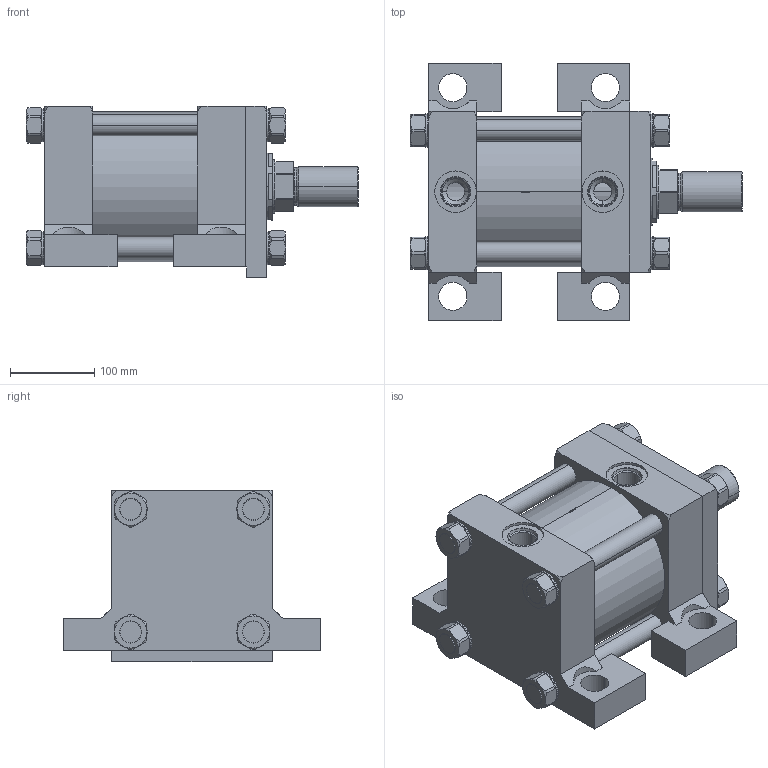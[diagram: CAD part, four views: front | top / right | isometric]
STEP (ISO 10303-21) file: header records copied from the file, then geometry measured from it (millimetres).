
FILE_DESCRIPTION (( 'STEP AP214' ), '1' );
FILE_NAME ('6.00CP2HHNAT114A2.000.step', '2026-03-26T21:15:46', ( '' ), ( '' ), 'SwSTEP 2.0', 'SolidWorks 2023', '' );
FILE_SCHEMA (( 'AUTOMOTIVE_DESIGN' ));
Length unit declared in the file: inch
Products named in the file (1): 6.00CP2HHNAT114A2.000
Bounding box: 393.7 x 304.8 x 203.2 mm (x, y, z)
Volume: 8501161.9 mm3; surface area: 942650.3 mm2
Topology: 44 solids, 44 shells, 1219 faces, 3145 edges, 2022 vertices
Faces by surface type: plane 795, cylinder 221, cone 161, bspline 34, torus 8
Entity records: 55132 total; most frequent: CARTESIAN_POINT 10945, ORIENTED_EDGE 6290, DIRECTION 5161, EDGE_CURVE 3145, VERTEX_POINT 2022, AXIS2_PLACEMENT_3D 1748, VECTOR 1665, LINE 1665
